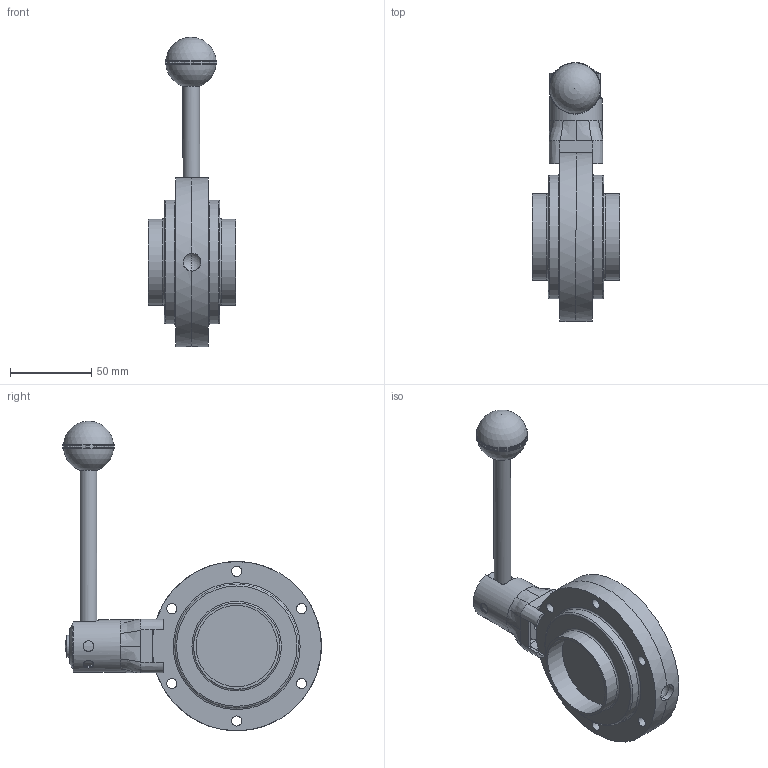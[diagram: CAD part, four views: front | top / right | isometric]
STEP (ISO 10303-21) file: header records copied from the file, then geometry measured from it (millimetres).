
FILE_DESCRIPTION(/* description */ ('VVF VALV.FARF.DN50 (53X1.5) SS EPDM 316 LEVA INOX 3POS.'),/* implementation_level */ '2;1');
FILE_NAME(/* name */ 'C:\_DED_PWS\ZIGN-L\DB\B\EBA\BEBACG050BEBV-00^SAGOMA.step',/* time_stamp */ '2023-05-29T08:50:30+02:00',/* author */ (''),/* organization */ (''),/* preprocessor_version */ 'ST-DEVELOPER v18.1',/* originating_system */ 'Autodesk Inventor 2022',/* authorisation */ '');
FILE_SCHEMA (('CONFIG_CONTROL_DESIGN'));
Length unit declared in the file: millimetre
Products named in the file (3): BEBACG050BEBV; TNU430065AAA; TWD006050BBA
Assembly tree (3 placements, depth 2):
  BEBACG050BEBV
    TNU430065AAA
    TWD006050BBA  x2
Bounding box: 54 x 158.92 x 190.18 mm (x, y, z)
Volume: 275843.2 mm3; surface area: 78529.1 mm2
Topology: 5 solids, 6 shells, 543 faces, 1325 edges, 873 vertices
Faces by surface type: plane 351, torus 85, cylinder 58, bspline 38, cone 7, sphere 4
Full cylindrical faces by diameter (mm): 6 x2, 6.2 x12, 6.5 x3, 9 x3, 9.3 x1, 10 x1, 10.4 x1, 10.5 x1, 11 x1, 11.1 x1, 11.4 x2, 13.4 x1, 15 x1, 15.2 x1, 27.8 x1, 28.4 x1, 32.2 x1, 50 x2, 53 x2, 76 x2, 104 x2
Entity records: 26291 total; most frequent: CARTESIAN_POINT 13495, DIRECTION 2570, ORIENTED_EDGE 2546, EDGE_CURVE 1273, AXIS2_PLACEMENT_3D 1070, VERTEX_POINT 841, EDGE_LOOP 628, CIRCLE 579
